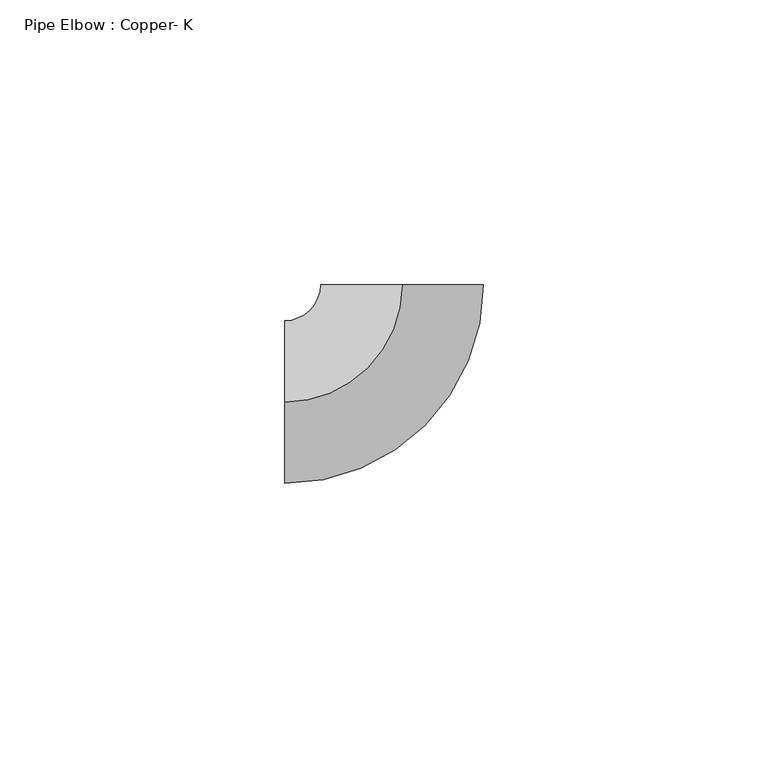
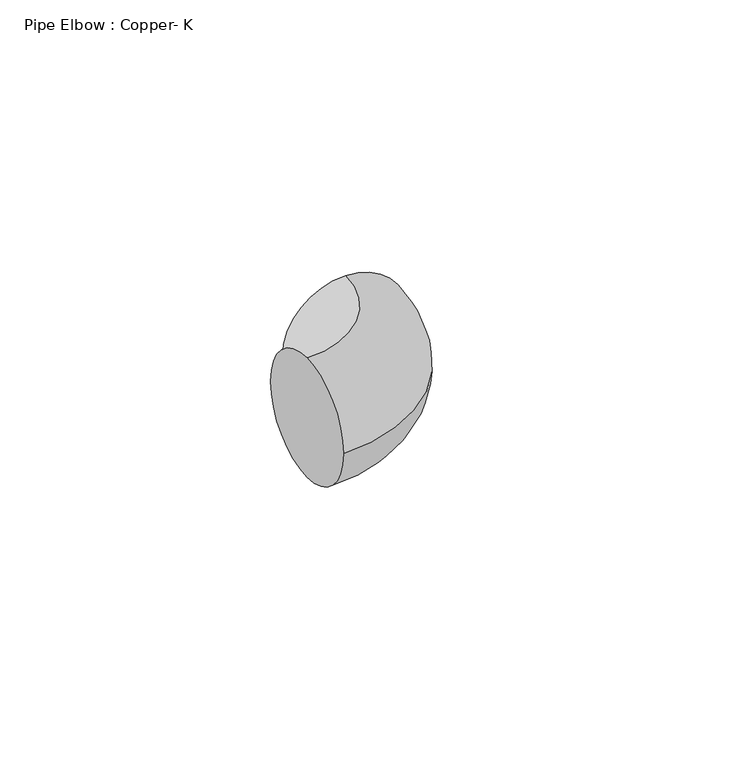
"""IFC4 building model written with IfcOpenShell, lengths in millimetres: pipe fitting geometry, Pipe Elbow : Copper- K."""

from ifc_helpers import new_model, si_unit, point, frame, origin, place, context, project, spatial, circle_curve, ellipse_curve, trimmed, source, transform, mapped, element, save
from ifc_brep_helpers import plane_surface, revolved_surface, advanced_brep


def pipe_elbow_copper_k_708d2ba0(model_context):
    return source(origin(), model_context, "Body", "AdvancedBrep", [
        advanced_brep(
        [(-20.6375014, 0.0, 14.2875), (-20.6375014, 14.2875, 0.0), (-20.6375014, 0.0, -14.2875), (-20.6375014, -14.2875, 0.0), (-1.4e-06, 20.6375014, 14.2875), (14.2874986, 20.6375024, 0.0), (-1.4e-06, 20.6375014, -14.2875), (-14.2875014, 20.6375004, 0.0)],
        [
            (0, 1, circle_curve(frame((-20.6375014, 0.0, 0.0), z_axis=(-1.0, 0.0, 0.0), x_axis=(0.0, 1.0, 0.0)), 14.2875)),
            (1, 2, circle_curve(frame((-20.6375014, 0.0, 0.0), z_axis=(-1.0, 0.0, 0.0), x_axis=(0.0, 1.0, 0.0)), 14.2875)),
            (2, 3, circle_curve(frame((-20.6375014, 0.0, 0.0), z_axis=(-1.0, 0.0, 0.0), x_axis=(0.0, 1.0, 0.0)), 14.2875)),
            (3, 0, circle_curve(frame((-20.6375014, 0.0, 0.0), z_axis=(-1.0, 0.0, 0.0), x_axis=(0.0, 1.0, 0.0)), 14.2875)),
            (4, 5, circle_curve(frame((-1.4e-06, 20.6375014, 0.0), z_axis=(-6.769921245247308e-08, 0.9999999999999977, 0.0), x_axis=(-0.9999999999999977, -6.769921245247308e-08, 0.0)), 14.2875)),
            (5, 6, circle_curve(frame((-1.4e-06, 20.6375014, 0.0), z_axis=(-6.769921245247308e-08, 0.9999999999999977, 0.0), x_axis=(-0.9999999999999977, -6.769921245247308e-08, 0.0)), 14.2875)),
            (6, 7, circle_curve(frame((-1.4e-06, 20.6375014, 0.0), z_axis=(-6.769921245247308e-08, 0.9999999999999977, 0.0), x_axis=(-0.9999999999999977, -6.769921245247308e-08, 0.0)), 14.2875)),
            (7, 4, circle_curve(frame((-1.4e-06, 20.6375014, 0.0), z_axis=(-6.769921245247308e-08, 0.9999999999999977, 0.0), x_axis=(-0.9999999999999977, -6.769921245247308e-08, 0.0)), 14.2875)),
            (7, 1, circle_curve(frame((-20.6375014, 20.6375, 0.0), z_axis=(0.0, 0.0, -1.0), x_axis=(0.0, -1.0, 0.0)), 6.35)),
            (0, 4, circle_curve(frame((-20.6375014, 20.6375, 14.2875), z_axis=(0.0, 0.0, 1.0), x_axis=(0.0, -1.0, 0.0)), 20.6375)),
            (6, 2, circle_curve(frame((-20.6375014, 20.6375, -14.2875), z_axis=(0.0, 0.0, -1.0), x_axis=(0.0, -1.0, 0.0)), 20.6375)),
            (5, 3, circle_curve(frame((-20.6375014, 20.6375, 0.0), z_axis=(0.0, 0.0, -1.0), x_axis=(0.0, -1.0, 0.0)), 34.925)),
        ],
        [
            plane_surface(frame((-20.6375014, 0.0, 0.0), z_axis=(-1.0, 0.0, 0.0), x_axis=(0.0, 0.0, 1.0))),
            plane_surface(frame((-1.4e-06, 20.6375014, 0.0), z_axis=(-6.769921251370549e-08, 0.9999999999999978, 0.0), x_axis=(0.0, 0.0, 1.0))),
            revolved_surface(trimmed(ellipse_curve(frame((-20.6375014, 0.0, 0.0), z_axis=(-1.0, 0.0, 0.0), x_axis=(0.0, 1.0, 0.0)), 14.2875, 14.2875), [point((-20.6375014, 0.0, 14.2875))], [point((-20.6375014, 14.2875, 0.0))], True, "CARTESIAN"), (-20.6375014, 20.6375, 0.0), (0.0, 0.0, 1.0)),
            revolved_surface(trimmed(ellipse_curve(frame((-20.6375014, 0.0, 0.0), z_axis=(-1.0, 0.0, 0.0), x_axis=(0.0, 1.0, 0.0)), 14.2875, 14.2875), [point((-20.6375014, 14.2875, 0.0))], [point((-20.6375014, 0.0, -14.2875))], True, "CARTESIAN"), (-20.6375014, 20.6375, 0.0), (0.0, 0.0, 1.0)),
            revolved_surface(trimmed(ellipse_curve(frame((-20.6375014, 0.0, 0.0), z_axis=(-1.0, 0.0, 0.0), x_axis=(0.0, 1.0, 0.0)), 14.2875, 14.2875), [point((-20.6375014, 0.0, -14.2875))], [point((-20.6375014, -14.2875, 0.0))], True, "CARTESIAN"), (-20.6375014, 20.6375, 0.0), (0.0, 0.0, 1.0)),
            revolved_surface(trimmed(ellipse_curve(frame((-20.6375014, 0.0, 0.0), z_axis=(-1.0, 0.0, 0.0), x_axis=(0.0, 1.0, 0.0)), 14.2875, 14.2875), [point((-20.6375014, -14.2875, 0.0))], [point((-20.6375014, 0.0, 14.2875))], True, "CARTESIAN"), (-20.6375014, 20.6375, 0.0), (0.0, 0.0, 1.0)),
        ],
        [
            (0, [[1, 2, 3, 4]]),
            (1, [[5, 6, 7, 8]]),
            (2, [[9, -1, 10, -8]]),
            (3, [[11, -2, -9, -7]]),
            (4, [[12, -3, -11, -6]]),
            (5, [[-10, -4, -12, -5]]),
        ],
    ),
        advanced_brep(
        [(-20.6375014, 0.0, 14.2875), (-20.6375014, 14.2875, 0.0), (-20.6375014, 0.0, -14.2875), (-20.6375014, -14.2875, 0.0), (-1.4e-06, 20.6375014, 14.2875), (14.2874986, 20.6375024, 0.0), (-1.4e-06, 20.6375014, -14.2875), (-14.2875014, 20.6375004, 0.0)],
        [
            (0, 1, circle_curve(frame((-20.6375014, 0.0, 0.0), z_axis=(-1.0, 0.0, 0.0), x_axis=(0.0, 1.0, 0.0)), 14.2875)),
            (1, 2, circle_curve(frame((-20.6375014, 0.0, 0.0), z_axis=(-1.0, 0.0, 0.0), x_axis=(0.0, 1.0, 0.0)), 14.2875)),
            (2, 3, circle_curve(frame((-20.6375014, 0.0, 0.0), z_axis=(-1.0, 0.0, 0.0), x_axis=(0.0, 1.0, 0.0)), 14.2875)),
            (3, 0, circle_curve(frame((-20.6375014, 0.0, 0.0), z_axis=(-1.0, 0.0, 0.0), x_axis=(0.0, 1.0, 0.0)), 14.2875)),
            (4, 5, circle_curve(frame((-1.4e-06, 20.6375014, 0.0), z_axis=(-6.769921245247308e-08, 0.9999999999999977, 0.0), x_axis=(-0.9999999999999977, -6.769921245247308e-08, 0.0)), 14.2875)),
            (5, 6, circle_curve(frame((-1.4e-06, 20.6375014, 0.0), z_axis=(-6.769921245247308e-08, 0.9999999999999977, 0.0), x_axis=(-0.9999999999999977, -6.769921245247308e-08, 0.0)), 14.2875)),
            (6, 7, circle_curve(frame((-1.4e-06, 20.6375014, 0.0), z_axis=(-6.769921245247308e-08, 0.9999999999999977, 0.0), x_axis=(-0.9999999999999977, -6.769921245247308e-08, 0.0)), 14.2875)),
            (7, 4, circle_curve(frame((-1.4e-06, 20.6375014, 0.0), z_axis=(-6.769921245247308e-08, 0.9999999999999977, 0.0), x_axis=(-0.9999999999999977, -6.769921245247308e-08, 0.0)), 14.2875)),
            (7, 1, circle_curve(frame((-20.6375014, 20.6375, 0.0), z_axis=(0.0, 0.0, -1.0), x_axis=(0.0, -1.0, 0.0)), 6.35)),
            (0, 4, circle_curve(frame((-20.6375014, 20.6375, 14.2875), z_axis=(0.0, 0.0, 1.0), x_axis=(0.0, -1.0, 0.0)), 20.6375)),
            (6, 2, circle_curve(frame((-20.6375014, 20.6375, -14.2875), z_axis=(0.0, 0.0, -1.0), x_axis=(0.0, -1.0, 0.0)), 20.6375)),
            (5, 3, circle_curve(frame((-20.6375014, 20.6375, 0.0), z_axis=(0.0, 0.0, -1.0), x_axis=(0.0, -1.0, 0.0)), 34.925)),
        ],
        [
            plane_surface(frame((-20.6375014, 0.0, 0.0), z_axis=(-1.0, 0.0, 0.0), x_axis=(0.0, 0.0, 1.0))),
            plane_surface(frame((-1.4e-06, 20.6375014, 0.0), z_axis=(-6.769921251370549e-08, 0.9999999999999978, 0.0), x_axis=(0.0, 0.0, 1.0))),
            revolved_surface(trimmed(ellipse_curve(frame((-20.6375014, 0.0, 0.0), z_axis=(-1.0, 0.0, 0.0), x_axis=(0.0, 1.0, 0.0)), 14.2875, 14.2875), [point((-20.6375014, 0.0, 14.2875))], [point((-20.6375014, 14.2875, 0.0))], True, "CARTESIAN"), (-20.6375014, 20.6375, 0.0), (0.0, 0.0, 1.0)),
            revolved_surface(trimmed(ellipse_curve(frame((-20.6375014, 0.0, 0.0), z_axis=(-1.0, 0.0, 0.0), x_axis=(0.0, 1.0, 0.0)), 14.2875, 14.2875), [point((-20.6375014, 14.2875, 0.0))], [point((-20.6375014, 0.0, -14.2875))], True, "CARTESIAN"), (-20.6375014, 20.6375, 0.0), (0.0, 0.0, 1.0)),
            revolved_surface(trimmed(ellipse_curve(frame((-20.6375014, 0.0, 0.0), z_axis=(-1.0, 0.0, 0.0), x_axis=(0.0, 1.0, 0.0)), 14.2875, 14.2875), [point((-20.6375014, 0.0, -14.2875))], [point((-20.6375014, -14.2875, 0.0))], True, "CARTESIAN"), (-20.6375014, 20.6375, 0.0), (0.0, 0.0, 1.0)),
            revolved_surface(trimmed(ellipse_curve(frame((-20.6375014, 0.0, 0.0), z_axis=(-1.0, 0.0, 0.0), x_axis=(0.0, 1.0, 0.0)), 14.2875, 14.2875), [point((-20.6375014, -14.2875, 0.0))], [point((-20.6375014, 0.0, 14.2875))], True, "CARTESIAN"), (-20.6375014, 20.6375, 0.0), (0.0, 0.0, 1.0)),
        ],
        [
            (0, [[1, 2, 3, 4]]),
            (1, [[5, 6, 7, 8]]),
            (2, [[9, -1, 10, -8]]),
            (3, [[11, -2, -9, -7]]),
            (4, [[12, -3, -11, -6]]),
            (5, [[-10, -4, -12, -5]]),
        ],
    ),
    ])


if __name__ == "__main__":
    model = new_model("IFC4")
    model_context = context("Model", 3, world=origin())
    ifc_project = project(units=[si_unit("LENGTHUNIT", "METRE", prefix="MILLI")], contexts=[model_context])
    site = spatial("IfcSite", under=ifc_project)
    building = spatial("IfcBuilding", under=site)
    placement = place(None, origin())
    pipe_elbow_copper_k_shape = pipe_elbow_copper_k_708d2ba0(model_context)
    element("IfcPipeFitting", 1, ObjectType="Pipe Elbow : Copper- K", at=placement, inside=building, context=model_context, shape_type="MappedRepresentation", body=[
        mapped(pipe_elbow_copper_k_shape, transform((0.0, 0.0, 0.0), x_axis=(1.0, 0.0, 0.0), y_axis=(0.0, 1.0, 0.0), z_axis=(0.0, 0.0, 1.0))),
    ])
    save(model, "model.ifc")
